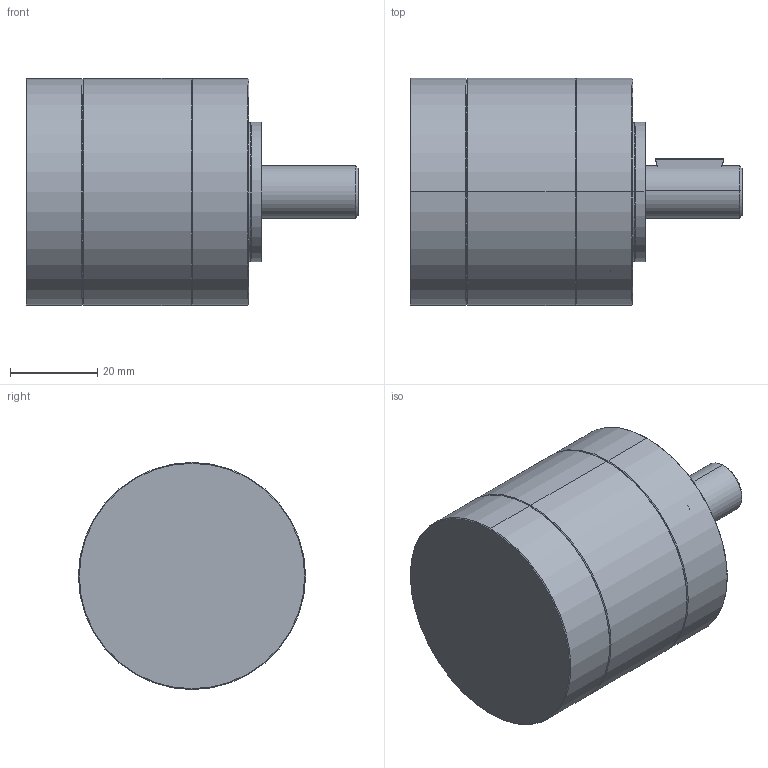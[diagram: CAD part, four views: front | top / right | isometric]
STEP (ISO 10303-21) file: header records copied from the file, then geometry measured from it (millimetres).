
FILE_DESCRIPTION (( 'STEP AP203' ), '1' );
FILE_NAME ('PI52-1.STEP', '2013-11-28T09:20:18', ( '' ), ( '' ), 'SwSTEP 2.0', 'SolidWorks 2012', '' );
FILE_SCHEMA (( 'CONFIG_CONTROL_DESIGN' ));
Length unit declared in the file: millimetre
Products named in the file (2): PI52-1; Group1^Baugruppe46_01
Assembly tree (1 placements, depth 2):
  PI52-1
    Group1^Baugruppe46_01
Bounding box: 76 x 52 x 52 mm (x, y, z)
Volume: 118523.7 mm3; surface area: 23022.9 mm2
Topology: 9 solids, 9 shells, 883 faces, 2226 edges, 1369 vertices
Faces by surface type: cone 484, cylinder 291, plane 88, torus 20
Full cylindrical faces by diameter (mm): 4.3 x4
Entity records: 26872 total; most frequent: DIRECTION 5292, CARTESIAN_POINT 4504, ORIENTED_EDGE 4416, EDGE_CURVE 2208, AXIS2_PLACEMENT_3D 2205, VERTEX_POINT 1369, CIRCLE 1318, EDGE_LOOP 909
